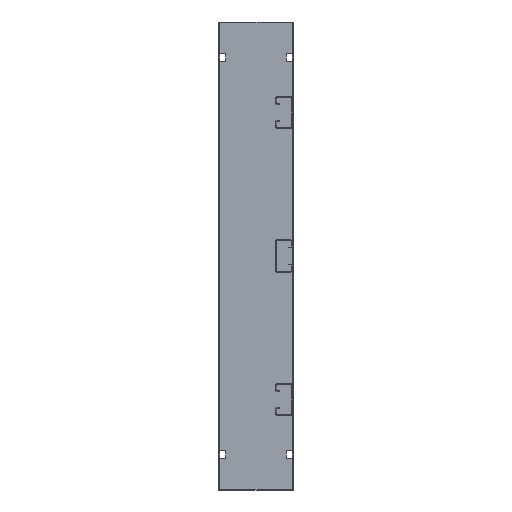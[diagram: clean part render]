
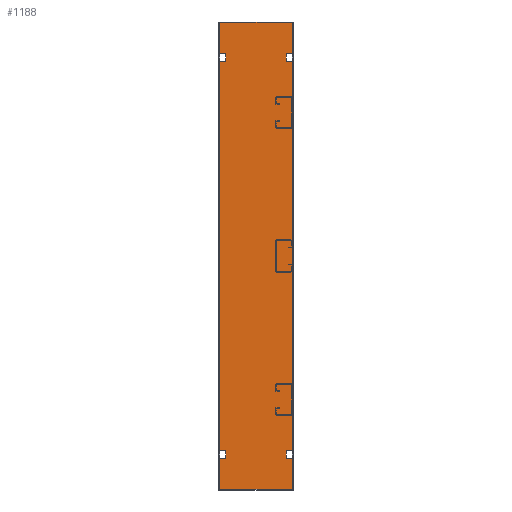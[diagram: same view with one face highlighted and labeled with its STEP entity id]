
A CAD part, left-side view. The second image highlights one B-rep face of the part: STEP entity #1188.
In plain terms, the highlighted planar face has unit normal (-1, 0, 0).
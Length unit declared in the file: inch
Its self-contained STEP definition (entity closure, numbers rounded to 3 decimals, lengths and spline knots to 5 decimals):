
#29=DIRECTION('',(0.,1.,0.));
#30=VECTOR('',#29,4.03);
#31=CARTESIAN_POINT('',(-0.075,0.08,0.));
#32=LINE('',#31,#30);
#321=DIRECTION('',(0.,0.,-1.));
#322=VECTOR('',#321,1.755);
#323=CARTESIAN_POINT('',(-0.075,4.11,0.));
#324=LINE('',#323,#322);
#329=DIRECTION('',(0.,0.,-1.));
#330=VECTOR('',#329,1.7117);
#331=CARTESIAN_POINT('',(-0.075,4.11,-24.101));
#332=LINE('',#331,#330);
#349=DIRECTION('',(0.,0.,-1.));
#350=VECTOR('',#349,21.526);
#351=CARTESIAN_POINT('',(-0.075,4.11,-2.165));
#352=LINE('',#351,#350);
#353=DIRECTION('',(0.,1.,0.));
#354=VECTOR('',#353,0.3575);
#355=CARTESIAN_POINT('',(-0.075,0.08,-23.691));
#356=LINE('',#355,#354);
#357=DIRECTION('',(0.,0.,-1.));
#358=VECTOR('',#357,0.41);
#359=CARTESIAN_POINT('',(-0.075,0.4375,-23.691));
#360=LINE('',#359,#358);
#361=DIRECTION('',(0.,-1.,0.));
#362=VECTOR('',#361,0.3575);
#363=CARTESIAN_POINT('',(-0.075,0.4375,-24.101));
#364=LINE('',#363,#362);
#365=DIRECTION('',(0.,0.,-1.));
#366=VECTOR('',#365,1.7117);
#367=CARTESIAN_POINT('',(-0.075,0.08,-24.101));
#368=LINE('',#367,#366);
#369=DIRECTION('',(0.,-1.,0.));
#370=VECTOR('',#369,0.3575);
#371=CARTESIAN_POINT('',(-0.075,4.11,-24.101));
#372=LINE('',#371,#370);
#373=DIRECTION('',(0.,0.,1.));
#374=VECTOR('',#373,0.41);
#375=CARTESIAN_POINT('',(-0.075,3.7525,-24.101));
#376=LINE('',#375,#374);
#377=DIRECTION('',(0.,1.,0.));
#378=VECTOR('',#377,0.3575);
#379=CARTESIAN_POINT('',(-0.075,3.7525,-23.691));
#380=LINE('',#379,#378);
#381=DIRECTION('',(0.,1.,0.));
#382=VECTOR('',#381,0.3575);
#383=CARTESIAN_POINT('',(-0.075,3.7525,-2.165));
#384=LINE('',#383,#382);
#385=DIRECTION('',(0.,0.,-1.));
#386=VECTOR('',#385,0.41);
#387=CARTESIAN_POINT('',(-0.075,3.7525,-1.755));
#388=LINE('',#387,#386);
#389=DIRECTION('',(0.,-1.,0.));
#390=VECTOR('',#389,0.3575);
#391=CARTESIAN_POINT('',(-0.075,4.11,-1.755));
#392=LINE('',#391,#390);
#393=DIRECTION('',(0.,0.,-1.));
#394=VECTOR('',#393,1.755);
#395=CARTESIAN_POINT('',(-0.075,0.08,0.));
#396=LINE('',#395,#394);
#397=DIRECTION('',(0.,-1.,0.));
#398=VECTOR('',#397,0.3575);
#399=CARTESIAN_POINT('',(-0.075,0.4375,-1.755));
#400=LINE('',#399,#398);
#401=DIRECTION('',(0.,0.,1.));
#402=VECTOR('',#401,0.41);
#403=CARTESIAN_POINT('',(-0.075,0.4375,-2.165));
#404=LINE('',#403,#402);
#405=DIRECTION('',(0.,1.,0.));
#406=VECTOR('',#405,0.3575);
#407=CARTESIAN_POINT('',(-0.075,0.08,-2.165));
#408=LINE('',#407,#406);
#409=DIRECTION('',(0.,0.,-1.));
#410=VECTOR('',#409,21.526);
#411=CARTESIAN_POINT('',(-0.075,0.08,-2.165));
#412=LINE('',#411,#410);
#421=DIRECTION('',(0.,1.,0.));
#422=VECTOR('',#421,4.03);
#423=CARTESIAN_POINT('',(-0.075,0.08,-25.8127));
#424=LINE('',#423,#422);
#525=CARTESIAN_POINT('',(-0.075,0.08,0.));
#526=VERTEX_POINT('',#525);
#527=CARTESIAN_POINT('',(-0.075,4.11,0.));
#528=VERTEX_POINT('',#527);
#533=CARTESIAN_POINT('',(-0.075,0.08,-25.8127));
#534=CARTESIAN_POINT('',(-0.075,4.11,-25.8127));
#535=VERTEX_POINT('',#533);
#536=VERTEX_POINT('',#534);
#585=CARTESIAN_POINT('',(-0.075,0.08,-2.165));
#586=CARTESIAN_POINT('',(-0.075,0.4375,-2.165));
#587=VERTEX_POINT('',#585);
#588=VERTEX_POINT('',#586);
#589=CARTESIAN_POINT('',(-0.075,0.4375,-1.755));
#590=VERTEX_POINT('',#589);
#591=CARTESIAN_POINT('',(-0.075,0.08,-1.755));
#592=VERTEX_POINT('',#591);
#593=CARTESIAN_POINT('',(-0.075,4.11,-1.755));
#594=CARTESIAN_POINT('',(-0.075,3.7525,-1.755));
#595=VERTEX_POINT('',#593);
#596=VERTEX_POINT('',#594);
#597=CARTESIAN_POINT('',(-0.075,3.7525,-2.165));
#598=VERTEX_POINT('',#597);
#599=CARTESIAN_POINT('',(-0.075,4.11,-2.165));
#600=VERTEX_POINT('',#599);
#622=CARTESIAN_POINT('',(-0.075,0.4375,-23.691));
#624=VERTEX_POINT('',#622);
#626=CARTESIAN_POINT('',(-0.075,0.4375,-24.101));
#628=VERTEX_POINT('',#626);
#632=CARTESIAN_POINT('',(-0.075,3.7525,-24.101));
#634=VERTEX_POINT('',#632);
#636=CARTESIAN_POINT('',(-0.075,3.7525,-23.691));
#638=VERTEX_POINT('',#636);
#649=CARTESIAN_POINT('',(-0.075,0.08,-23.691));
#650=VERTEX_POINT('',#649);
#651=CARTESIAN_POINT('',(-0.075,0.08,-24.101));
#652=VERTEX_POINT('',#651);
#653=CARTESIAN_POINT('',(-0.075,4.11,-24.101));
#654=VERTEX_POINT('',#653);
#655=CARTESIAN_POINT('',(-0.075,4.11,-23.691));
#656=VERTEX_POINT('',#655);
#1154=CARTESIAN_POINT('',(-0.075,0.08,0.));
#1155=DIRECTION('',(-1.,0.,0.));
#1156=DIRECTION('',(0.,1.,0.));
#1157=AXIS2_PLACEMENT_3D('',#1154,#1155,#1156);
#1158=PLANE('',#1157);
#1159=ORIENTED_EDGE('',*,*,#964,.T.);
#1161=ORIENTED_EDGE('',*,*,#1160,.T.);
#1162=ORIENTED_EDGE('',*,*,#834,.T.);
#1163=ORIENTED_EDGE('',*,*,#884,.T.);
#1165=ORIENTED_EDGE('',*,*,#1164,.T.);
#1166=ORIENTED_EDGE('',*,*,#1131,.F.);
#1168=ORIENTED_EDGE('',*,*,#1167,.T.);
#1170=ORIENTED_EDGE('',*,*,#1169,.T.);
#1172=ORIENTED_EDGE('',*,*,#1171,.T.);
#1173=ORIENTED_EDGE('',*,*,#1149,.F.);
#1174=ORIENTED_EDGE('',*,*,#1056,.F.);
#1175=ORIENTED_EDGE('',*,*,#1075,.F.);
#1176=ORIENTED_EDGE('',*,*,#1093,.F.);
#1177=ORIENTED_EDGE('',*,*,#1119,.F.);
#1178=ORIENTED_EDGE('',*,*,#696,.F.);
#1179=ORIENTED_EDGE('',*,*,#852,.T.);
#1180=ORIENTED_EDGE('',*,*,#898,.F.);
#1182=ORIENTED_EDGE('',*,*,#1181,.F.);
#1184=ORIENTED_EDGE('',*,*,#1183,.F.);
#1185=ORIENTED_EDGE('',*,*,#866,.T.);
#1186=EDGE_LOOP('',(#1159,#1161,#1162,#1163,#1165,#1166,#1168,#1170,#1172,#1173,
#1174,#1175,#1176,#1177,#1178,#1179,#1180,#1182,#1184,#1185));
#1187=FACE_OUTER_BOUND('',#1186,.F.);
#1188=ADVANCED_FACE('',(#1187),#1158,.T.);
#696=EDGE_CURVE('',#526,#528,#32,.T.);
#834=EDGE_CURVE('',#628,#652,#364,.T.);
#852=EDGE_CURVE('',#526,#592,#396,.T.);
#866=EDGE_CURVE('',#587,#650,#412,.T.);
#884=EDGE_CURVE('',#652,#535,#368,.T.);
#898=EDGE_CURVE('',#590,#592,#400,.T.);
#964=EDGE_CURVE('',#650,#624,#356,.T.);
#1056=EDGE_CURVE('',#598,#600,#384,.T.);
#1075=EDGE_CURVE('',#596,#598,#388,.T.);
#1093=EDGE_CURVE('',#595,#596,#392,.T.);
#1119=EDGE_CURVE('',#528,#595,#324,.T.);
#1131=EDGE_CURVE('',#654,#536,#332,.T.);
#1149=EDGE_CURVE('',#600,#656,#352,.T.);
#1160=EDGE_CURVE('',#624,#628,#360,.T.);
#1164=EDGE_CURVE('',#535,#536,#424,.T.);
#1167=EDGE_CURVE('',#654,#634,#372,.T.);
#1169=EDGE_CURVE('',#634,#638,#376,.T.);
#1171=EDGE_CURVE('',#638,#656,#380,.T.);
#1181=EDGE_CURVE('',#588,#590,#404,.T.);
#1183=EDGE_CURVE('',#587,#588,#408,.T.);
